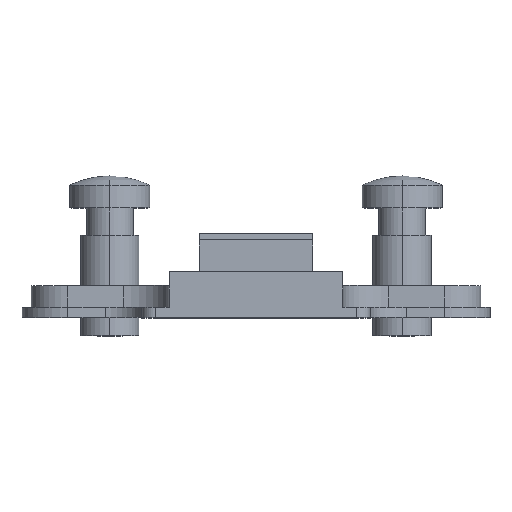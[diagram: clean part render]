
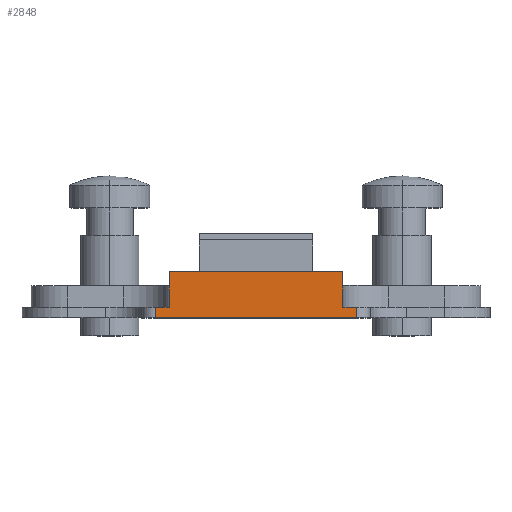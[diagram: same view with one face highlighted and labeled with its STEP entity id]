
A CAD part, top view. The second image highlights one B-rep face of the part: STEP entity #2848.
In plain terms, the highlighted planar face has unit normal (0, 0, 1).
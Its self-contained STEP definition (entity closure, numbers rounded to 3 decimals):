
#19 = AXIS2_PLACEMENT_3D ( 'NONE', #2693, #2949, #1489 ) ;
#132 = VERTEX_POINT ( 'NONE', #2846 ) ;
#156 = VERTEX_POINT ( 'NONE', #1448 ) ;
#207 = CARTESIAN_POINT ( 'NONE',  ( -10.5, 0., 17. ) ) ;
#263 = DIRECTION ( 'NONE',  ( 0., 1., 0. ) ) ;
#280 = VERTEX_POINT ( 'NONE', #580 ) ;
#312 = VERTEX_POINT ( 'NONE', #2890 ) ;
#321 = VECTOR ( 'NONE', #1050, 1000. ) ;
#361 = CARTESIAN_POINT ( 'NONE',  ( 10., 1.1, 17. ) ) ;
#364 = DIRECTION ( 'NONE',  ( 1., 0., 0. ) ) ;
#385 = LINE ( 'NONE', #2008, #321 ) ;
#420 = ORIENTED_EDGE ( 'NONE', *, *, #739, .T. ) ;
#445 = EDGE_CURVE ( 'NONE', #2410, #132, #2142, .T. ) ;
#504 = VERTEX_POINT ( 'NONE', #2605 ) ;
#580 = CARTESIAN_POINT ( 'NONE',  ( 11.5, 0., 17. ) ) ;
#682 = DIRECTION ( 'NONE',  ( 0., 1., 0. ) ) ;
#739 = EDGE_CURVE ( 'NONE', #1599, #504, #1801, .T. ) ;
#822 = CARTESIAN_POINT ( 'NONE',  ( 8.97, 0., 17. ) ) ;
#840 = CARTESIAN_POINT ( 'NONE',  ( -10.5, 0., 17. ) ) ;
#992 = LINE ( 'NONE', #2979, #2193 ) ;
#1008 = PLANE ( 'NONE',  #19 ) ;
#1023 = EDGE_CURVE ( 'NONE', #1725, #156, #1206, .T. ) ;
#1029 = DIRECTION ( 'NONE',  ( -1., 0., 0. ) ) ;
#1050 = DIRECTION ( 'NONE',  ( 1., 0., 0. ) ) ;
#1147 = LINE ( 'NONE', #1896, #2920 ) ;
#1165 = VECTOR ( 'NONE', #2232, 1000. ) ;
#1206 = LINE ( 'NONE', #2853, #2903 ) ;
#1419 = VECTOR ( 'NONE', #2762, 1000. ) ;
#1448 = CARTESIAN_POINT ( 'NONE',  ( 10., 5., 17. ) ) ;
#1477 = CARTESIAN_POINT ( 'NONE',  ( -9., 5., 17. ) ) ;
#1489 = DIRECTION ( 'NONE',  ( 1., 0., 0. ) ) ;
#1505 = VECTOR ( 'NONE', #1845, 1000. ) ;
#1514 = VECTOR ( 'NONE', #364, 1000. ) ;
#1531 = CARTESIAN_POINT ( 'NONE',  ( -15., 1.1, 17. ) ) ;
#1599 = VERTEX_POINT ( 'NONE', #1477 ) ;
#1725 = VERTEX_POINT ( 'NONE', #361 ) ;
#1728 = EDGE_CURVE ( 'NONE', #1725, #312, #385, .T. ) ;
#1798 = EDGE_CURVE ( 'NONE', #2410, #280, #2053, .T. ) ;
#1801 = LINE ( 'NONE', #2986, #1165 ) ;
#1814 = ORIENTED_EDGE ( 'NONE', *, *, #445, .F. ) ;
#1845 = DIRECTION ( 'NONE',  ( 0., 1., 0. ) ) ;
#1888 = FACE_OUTER_BOUND ( 'NONE', #2825, .T. ) ;
#1896 = CARTESIAN_POINT ( 'NONE',  ( 11.5, 0., 17. ) ) ;
#2008 = CARTESIAN_POINT ( 'NONE',  ( 16., 1.1, 17. ) ) ;
#2053 = LINE ( 'NONE', #822, #1419 ) ;
#2142 = LINE ( 'NONE', #207, #1505 ) ;
#2149 = LINE ( 'NONE', #1531, #1514 ) ;
#2193 = VECTOR ( 'NONE', #1029, 1000. ) ;
#2232 = DIRECTION ( 'NONE',  ( 0., -1., 0. ) ) ;
#2292 = EDGE_CURVE ( 'NONE', #156, #1599, #992, .T. ) ;
#2410 = VERTEX_POINT ( 'NONE', #840 ) ;
#2520 = ORIENTED_EDGE ( 'NONE', *, *, #1798, .T. ) ;
#2605 = CARTESIAN_POINT ( 'NONE',  ( -9., 1.1, 17. ) ) ;
#2659 = ORIENTED_EDGE ( 'NONE', *, *, #2292, .T. ) ;
#2690 = EDGE_CURVE ( 'NONE', #280, #312, #1147, .T. ) ;
#2693 = CARTESIAN_POINT ( 'NONE',  ( -12.053, -3.751, 17. ) ) ;
#2698 = ORIENTED_EDGE ( 'NONE', *, *, #2690, .T. ) ;
#2740 = ORIENTED_EDGE ( 'NONE', *, *, #1728, .F. ) ;
#2762 = DIRECTION ( 'NONE',  ( 1., 0., 0. ) ) ;
#2825 = EDGE_LOOP ( 'NONE', ( #2740, #2845, #2659, #420, #3081, #1814, #2520, #2698 ) ) ;
#2845 = ORIENTED_EDGE ( 'NONE', *, *, #1023, .T. ) ;
#2846 = CARTESIAN_POINT ( 'NONE',  ( -10.5, 1.1, 17. ) ) ;
#2848 = ADVANCED_FACE ( 'NONE', ( #1888 ), #1008, .T. ) ;
#2853 = CARTESIAN_POINT ( 'NONE',  ( 10., 1.1, 17. ) ) ;
#2890 = CARTESIAN_POINT ( 'NONE',  ( 11.5, 1.1, 17. ) ) ;
#2903 = VECTOR ( 'NONE', #682, 1000. ) ;
#2920 = VECTOR ( 'NONE', #263, 1000. ) ;
#2943 = EDGE_CURVE ( 'NONE', #132, #504, #2149, .T. ) ;
#2949 = DIRECTION ( 'NONE',  ( 0., 0., 1. ) ) ;
#2979 = CARTESIAN_POINT ( 'NONE',  ( 6.59, 5., 17. ) ) ;
#2986 = CARTESIAN_POINT ( 'NONE',  ( -9., 1.1, 17. ) ) ;
#3081 = ORIENTED_EDGE ( 'NONE', *, *, #2943, .F. ) ;
